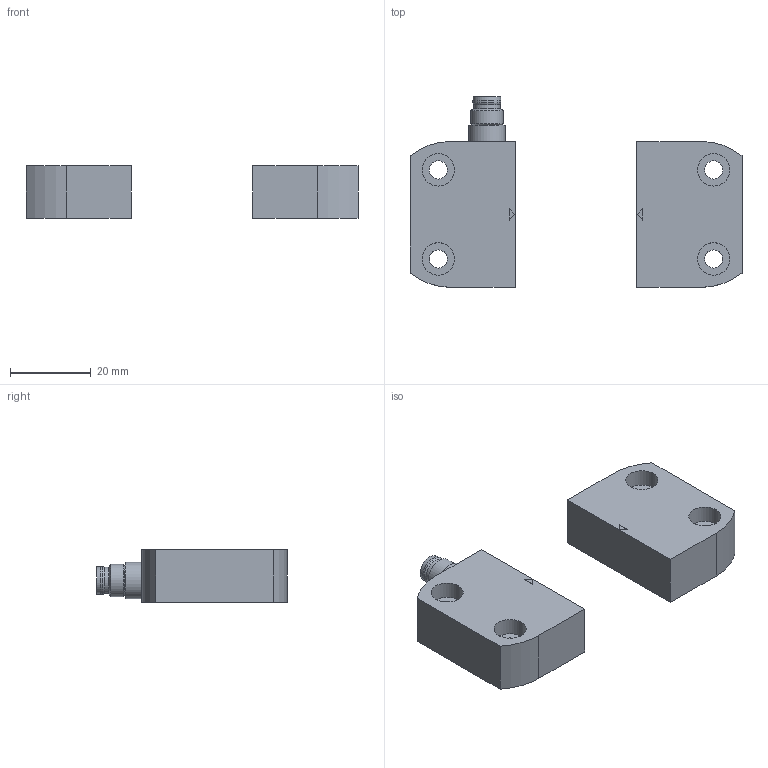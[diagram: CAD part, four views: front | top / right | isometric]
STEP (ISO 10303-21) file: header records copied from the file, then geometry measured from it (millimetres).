
FILE_DESCRIPTION(/* description */ ('STEP AP203'),/* implementation_level */ '2;1');
FILE_NAME(/* name */ 'P_MZ_100_0995',/* time_stamp */ '2024-07-08T11:10:54+02:00',/* author */ ('License CC BY-ND 4.0'),/* organization */ ('CADENAS'),/* preprocessor_version */ 'ST-DEVELOPER v19.3',/* originating_system */ 'PARTsolutions',/* authorisation */ ' ');
FILE_SCHEMA (('CONFIG_CONTROL_DESIGN'));
Length unit declared in the file: millimetre
Products named in the file (3): P_MZ_100_0995; P_MZ_100_0995_P1; P_MZ_100_0995_P2
Assembly tree (2 placements, depth 2):
  P_MZ_100_0995
    P_MZ_100_0995_P1
    P_MZ_100_0995_P2
Bounding box: 82 x 47.1 x 13 mm (x, y, z)
Volume: 22769.7 mm3; surface area: 7923.7 mm2
Topology: 2 solids, 2 shells, 53 faces, 113 edges, 73 vertices
Faces by surface type: plane 30, cylinder 19, cone 4
Full cylindrical faces by diameter (mm): 4.5 x4, 5.8 x1, 6.5 x1, 6.9 x1, 7 x1, 8 x5, 9 x1
Entity records: 1662 total; most frequent: DIRECTION 246, CARTESIAN_POINT 222, ORIENTED_EDGE 188, AXIS2_PLACEMENT_3D 96, EDGE_CURVE 94, EDGE_LOOP 88, FACE_BOUND 88, VERTEX_POINT 72
